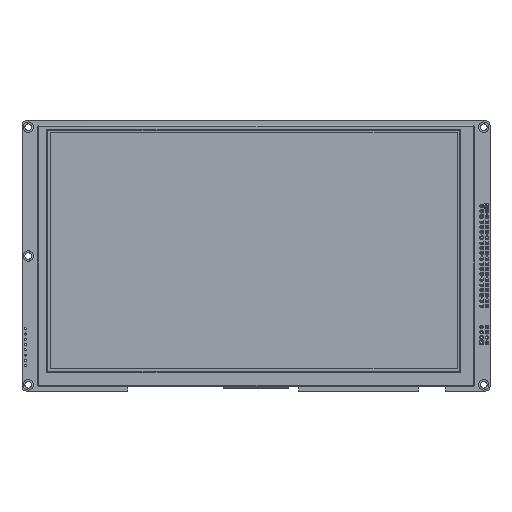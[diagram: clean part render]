
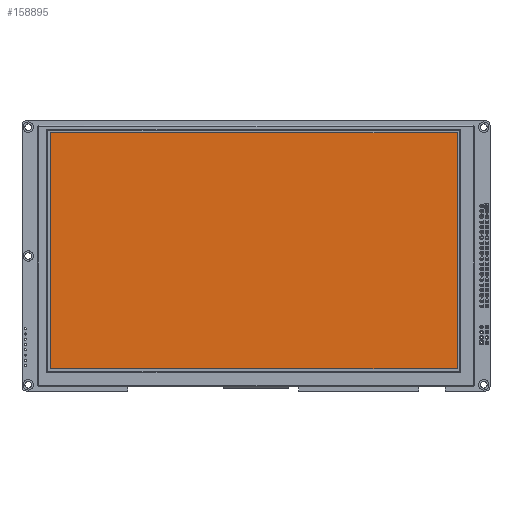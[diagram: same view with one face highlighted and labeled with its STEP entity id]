
A CAD part, top view. The second image highlights one B-rep face of the part: STEP entity #158895.
In plain terms, the highlighted planar face has unit normal (0, 0, 1) as drawn and (0, 1, 0) by its records, which use the part's own axes.
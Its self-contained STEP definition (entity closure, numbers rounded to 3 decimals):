
#6642 = DIRECTION ( 'NONE',  ( 1., 0., 0. ) ) ;
#11200 = DIRECTION ( 'NONE',  ( 0., 0., 1. ) ) ;
#44422 = LINE ( 'NONE', #412959, #280790 ) ;
#87213 = FACE_OUTER_BOUND ( 'NONE', #106799, .T. ) ;
#95624 = ORIENTED_EDGE ( 'NONE', *, *, #248637, .F. ) ;
#105176 = EDGE_CURVE ( 'NONE', #304768, #181899, #430216, .T. ) ;
#106799 = EDGE_LOOP ( 'NONE', ( #444932, #239490, #202421, #95624 ) ) ;
#142223 = LINE ( 'NONE', #209161, #462519 ) ;
#158611 = CARTESIAN_POINT ( 'NONE',  ( 0., -0.1, 0. ) ) ;
#158895 = ADVANCED_FACE ( 'NONE', ( #87213 ), #382101, .T. ) ;
#164564 = CARTESIAN_POINT ( 'NONE',  ( 97.2, -0.1, 54.53 ) ) ;
#181899 = VERTEX_POINT ( 'NONE', #456514 ) ;
#202421 = ORIENTED_EDGE ( 'NONE', *, *, #407331, .F. ) ;
#209161 = CARTESIAN_POINT ( 'NONE',  ( 97.2, -0.1, 0. ) ) ;
#227930 = DIRECTION ( 'NONE',  ( 0., 1., 0. ) ) ;
#239490 = ORIENTED_EDGE ( 'NONE', *, *, #334948, .F. ) ;
#248637 = EDGE_CURVE ( 'NONE', #181899, #401558, #415003, .T. ) ;
#272943 = VERTEX_POINT ( 'NONE', #164564 ) ;
#280603 = DIRECTION ( 'NONE',  ( 0., 0., -1. ) ) ;
#280790 = VECTOR ( 'NONE', #299034, 1000. ) ;
#299034 = DIRECTION ( 'NONE',  ( -1., 0., 0. ) ) ;
#304768 = VERTEX_POINT ( 'NONE', #431020 ) ;
#306624 = VECTOR ( 'NONE', #280603, 1000. ) ;
#316176 = CARTESIAN_POINT ( 'NONE',  ( -99.4, -0.1, 0. ) ) ;
#319346 = VECTOR ( 'NONE', #6642, 1000. ) ;
#330269 = CARTESIAN_POINT ( 'NONE',  ( 0., -0.1, -59.62 ) ) ;
#334948 = EDGE_CURVE ( 'NONE', #272943, #304768, #44422, .T. ) ;
#354113 = DIRECTION ( 'NONE',  ( 0., 0., 1. ) ) ;
#382101 = PLANE ( 'NONE',  #429223 ) ;
#401558 = VERTEX_POINT ( 'NONE', #459140 ) ;
#407331 = EDGE_CURVE ( 'NONE', #401558, #272943, #142223, .T. ) ;
#412959 = CARTESIAN_POINT ( 'NONE',  ( 0., -0.1, 54.53 ) ) ;
#415003 = LINE ( 'NONE', #330269, #319346 ) ;
#429223 = AXIS2_PLACEMENT_3D ( 'NONE', #158611, #227930, #11200 ) ;
#430216 = LINE ( 'NONE', #316176, #306624 ) ;
#431020 = CARTESIAN_POINT ( 'NONE',  ( -99.4, -0.1, 54.53 ) ) ;
#444932 = ORIENTED_EDGE ( 'NONE', *, *, #105176, .F. ) ;
#456514 = CARTESIAN_POINT ( 'NONE',  ( -99.4, -0.1, -59.62 ) ) ;
#459140 = CARTESIAN_POINT ( 'NONE',  ( 97.2, -0.1, -59.62 ) ) ;
#462519 = VECTOR ( 'NONE', #354113, 1000. ) ;
